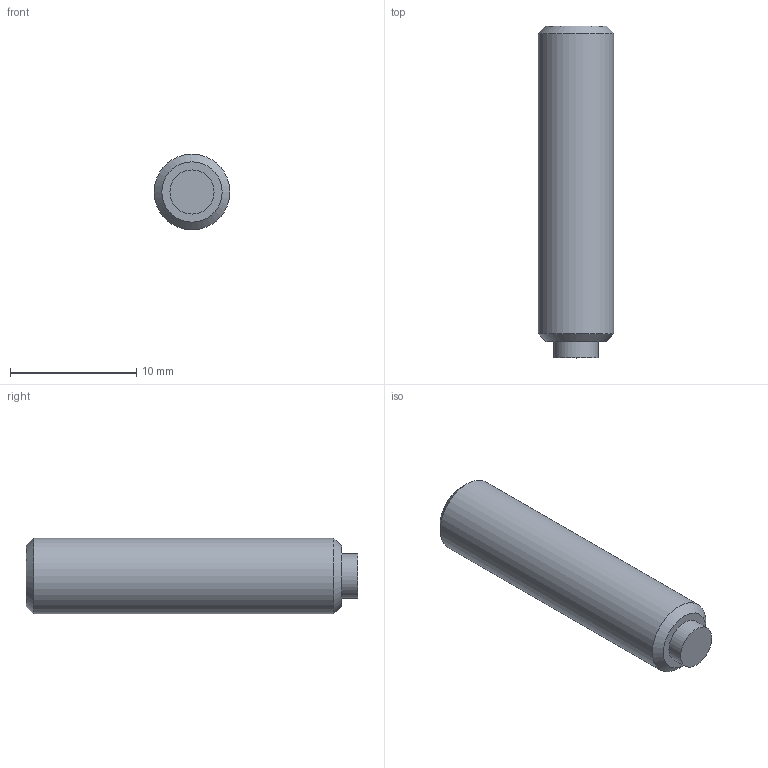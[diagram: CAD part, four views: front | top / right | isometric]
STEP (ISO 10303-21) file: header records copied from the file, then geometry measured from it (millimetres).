
FILE_DESCRIPTION( ( 'STEP AP203' ), '1' );
FILE_NAME( 'C:/Temp/Ganter_Step_05_03_2020/data/3_2/gn913_3/Grub screw GN 913.3-M6-25-KU.stp', '2020-03-13T05:35:36', ( 'License CC BY-ND 4.0' ), ( 'CADENAS' ), ' ', 'PARTsolutions', ' ' );
FILE_SCHEMA( ( 'CONFIG_CONTROL_DESIGN' ) );
Length unit declared in the file: millimetre
Products named in the file (1): _Grub screw GN 913.3-M6-25-KU
Bounding box: 6 x 26.3 x 6 mm (x, y, z)
Volume: 685.5 mm3; surface area: 563.9 mm2
Topology: 1 solids, 1 shells, 14 faces, 28 edges, 18 vertices
Faces by surface type: plane 10, cylinder 2, cone 2
Full cylindrical faces by diameter (mm): 3.5 x1, 6 x1
Entity records: 386 total; most frequent: DIRECTION 60, CARTESIAN_POINT 57, ORIENTED_EDGE 48, EDGE_CURVE 24, AXIS2_PLACEMENT_3D 21, EDGE_LOOP 20, VERTEX_POINT 18, LINE 18
